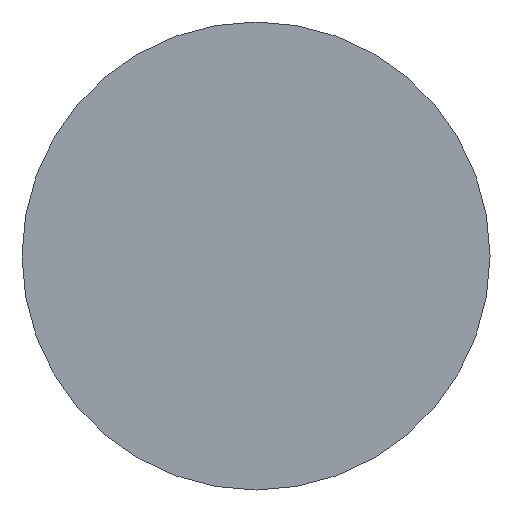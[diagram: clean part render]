
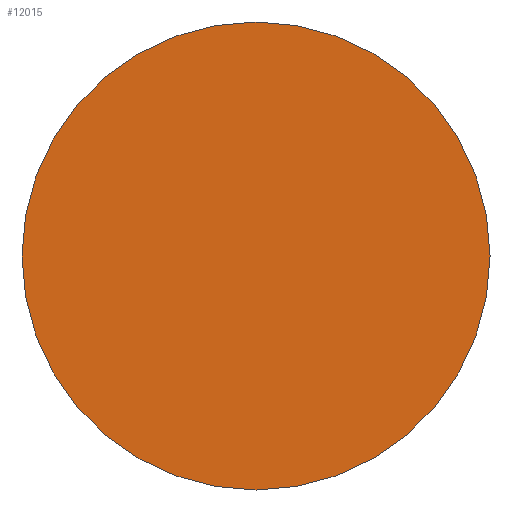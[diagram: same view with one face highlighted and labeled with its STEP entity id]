
A CAD part, front view. The second image highlights one B-rep face of the part: STEP entity #12015.
In plain terms, the highlighted planar face has unit normal (0, -1, 0).
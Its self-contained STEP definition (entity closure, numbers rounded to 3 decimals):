
#3569=CARTESIAN_POINT('',(0.,0.,0.));
#3570=DIRECTION('',(0.,-1.,0.));
#3571=DIRECTION('',(0.,0.,-1.));
#3572=AXIS2_PLACEMENT_3D('',#3569,#3570,#3571);
#3574=CARTESIAN_POINT('',(0.,0.,0.));
#3575=DIRECTION('',(0.,-1.,0.));
#3576=DIRECTION('',(0.,0.,1.));
#3577=AXIS2_PLACEMENT_3D('',#3574,#3575,#3576);
#3924=CARTESIAN_POINT('',(0.,0.,-4.016));
#3925=CARTESIAN_POINT('',(0.,0.,4.016));
#3926=VERTEX_POINT('',#3924);
#3927=VERTEX_POINT('',#3925);
#12006=CARTESIAN_POINT('',(0.,0.,0.));
#12007=DIRECTION('',(0.,1.,0.));
#12008=DIRECTION('',(0.,0.,1.));
#12009=AXIS2_PLACEMENT_3D('',#12006,#12007,#12008);
#12010=PLANE('',#12009);
#12011=ORIENTED_EDGE('',*,*,#12000,.F.);
#12012=ORIENTED_EDGE('',*,*,#11985,.F.);
#12013=EDGE_LOOP('',(#12011,#12012));
#12014=FACE_OUTER_BOUND('',#12013,.F.);
#12015=ADVANCED_FACE('',(#12014),#12010,.F.);
#3573=CIRCLE('',#3572,4.016);
#3578=CIRCLE('',#3577,4.016);
#11985=EDGE_CURVE('',#3927,#3926,#3578,.T.);
#12000=EDGE_CURVE('',#3926,#3927,#3573,.T.);
